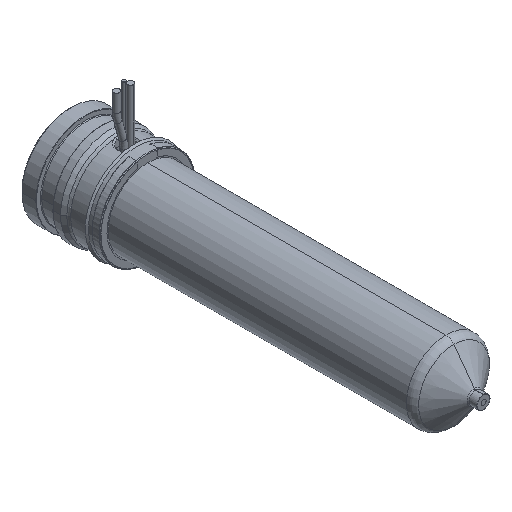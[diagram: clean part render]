
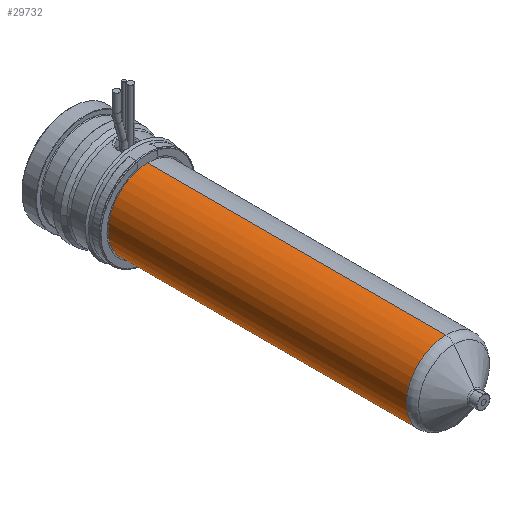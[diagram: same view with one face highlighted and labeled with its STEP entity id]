
A CAD part, isometric view. The second image highlights one B-rep face of the part: STEP entity #29732.
In plain terms, the highlighted cylindrical face has radius 12 mm (diameter 24 mm), a partial arc.
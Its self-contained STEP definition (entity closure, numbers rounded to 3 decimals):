
#29377=CARTESIAN_POINT('',(0.,-24.,0.));
#29378=DIRECTION('',(0.,1.,0.));
#29379=DIRECTION('',(0.,0.,-1.));
#29380=AXIS2_PLACEMENT_3D('',#29377,#29378,#29379);
#29385=DIRECTION('',(0.,1.,0.));
#29386=VECTOR('',#29385,90.671);
#29387=CARTESIAN_POINT('',(0.,-114.671,12.));
#29388=LINE('',#29387,#29386);
#29400=DIRECTION('',(0.,1.,0.));
#29401=VECTOR('',#29400,90.671);
#29402=CARTESIAN_POINT('',(0.,-114.671,-12.));
#29403=LINE('',#29402,#29401);
#29431=CARTESIAN_POINT('',(0.,-114.671,0.));
#29432=DIRECTION('',(0.,-1.,0.));
#29433=DIRECTION('',(0.,0.,1.));
#29434=AXIS2_PLACEMENT_3D('',#29431,#29432,#29433);
#29621=CARTESIAN_POINT('',(0.,-114.671,12.));
#29622=CARTESIAN_POINT('',(0.,-24.,12.));
#29623=VERTEX_POINT('',#29621);
#29624=VERTEX_POINT('',#29622);
#29629=CARTESIAN_POINT('',(0.,-114.671,-12.));
#29630=CARTESIAN_POINT('',(0.,-24.,-12.));
#29631=VERTEX_POINT('',#29629);
#29632=VERTEX_POINT('',#29630);
#29718=CARTESIAN_POINT('',(0.,-14.7,0.));
#29719=DIRECTION('',(0.,-1.,0.));
#29720=DIRECTION('',(0.,0.,1.));
#29721=AXIS2_PLACEMENT_3D('',#29718,#29719,#29720);
#29722=CYLINDRICAL_SURFACE('',#29721,12.);
#29724=ORIENTED_EDGE('',*,*,#29723,.F.);
#29726=ORIENTED_EDGE('',*,*,#29725,.T.);
#29728=ORIENTED_EDGE('',*,*,#29727,.T.);
#29729=ORIENTED_EDGE('',*,*,#29711,.T.);
#29730=EDGE_LOOP('',(#29724,#29726,#29728,#29729));
#29731=FACE_OUTER_BOUND('',#29730,.F.);
#29732=ADVANCED_FACE('',(#29731),#29722,.T.);
#29381=CIRCLE('',#29380,12.);
#29435=CIRCLE('',#29434,12.);
#29711=EDGE_CURVE('',#29632,#29624,#29381,.T.);
#29723=EDGE_CURVE('',#29623,#29624,#29388,.T.);
#29725=EDGE_CURVE('',#29623,#29631,#29435,.T.);
#29727=EDGE_CURVE('',#29631,#29632,#29403,.T.);
